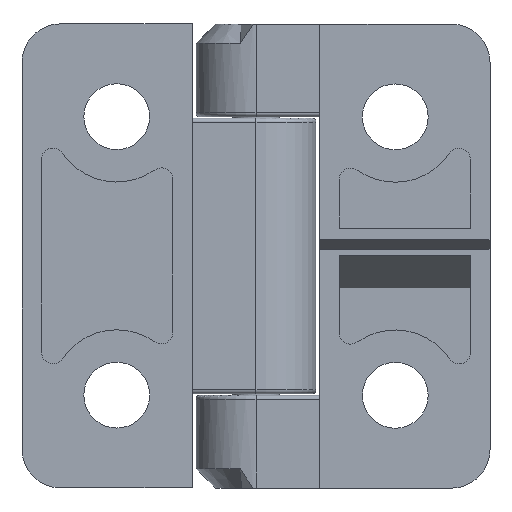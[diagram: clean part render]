
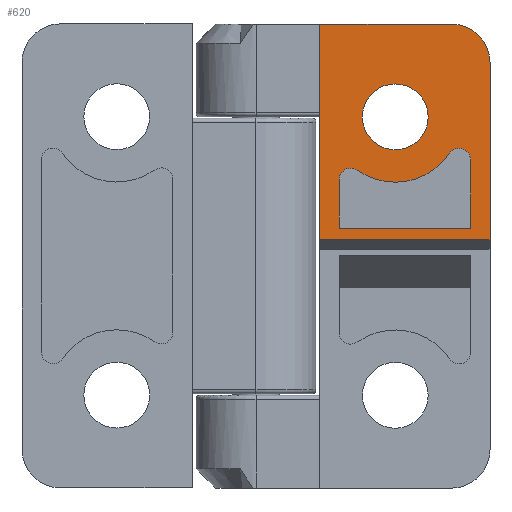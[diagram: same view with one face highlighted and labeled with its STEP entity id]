
A CAD part, front view. The second image highlights one B-rep face of the part: STEP entity #620.
In plain terms, the highlighted planar face has unit normal (0, -1, 0).
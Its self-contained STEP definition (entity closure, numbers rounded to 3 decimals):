
#29 = CARTESIAN_POINT ( 'NONE',  ( -75.713, -51.496, 2.389 ) ) ;
#40 = ORIENTED_EDGE ( 'NONE', *, *, #2066, .T. ) ;
#80 = CIRCLE ( 'NONE', #2576, 0.99 ) ;
#176 = DIRECTION ( 'NONE',  ( 0., 0., -1. ) ) ;
#179 = EDGE_CURVE ( 'NONE', #3744, #4067, #2617, .T. ) ;
#200 = DIRECTION ( 'NONE',  ( 0., 1., 0. ) ) ;
#202 = AXIS2_PLACEMENT_3D ( 'NONE', #3541, #3897, #176 ) ;
#240 = EDGE_CURVE ( 'NONE', #1163, #498, #1005, .T. ) ;
#241 = VECTOR ( 'NONE', #1624, 1000. ) ;
#256 = ORIENTED_EDGE ( 'NONE', *, *, #1982, .F. ) ;
#283 = CARTESIAN_POINT ( 'NONE',  ( -62.843, -51.496, 1.399 ) ) ;
#304 = ORIENTED_EDGE ( 'NONE', *, *, #611, .F. ) ;
#317 = PLANE ( 'NONE',  #1786 ) ;
#412 = CARTESIAN_POINT ( 'NONE',  ( -66.143, -51.496, 19.8 ) ) ;
#481 = CARTESIAN_POINT ( 'NONE',  ( -66.304, -51.496, 8.762 ) ) ;
#488 = EDGE_CURVE ( 'NONE', #2039, #1979, #80, .T. ) ;
#498 = VERTEX_POINT ( 'NONE', #1833 ) ;
#586 = CIRCLE ( 'NONE', #3370, 5.577 ) ;
#611 = EDGE_CURVE ( 'NONE', #2085, #2039, #2346, .T. ) ;
#620 = ADVANCED_FACE ( 'NONE', ( #3972, #2300, #2325 ), #317, .F. ) ;
#628 = VERTEX_POINT ( 'NONE', #3012 ) ;
#643 = DIRECTION ( 'NONE',  ( 0., 0., -1. ) ) ;
#663 = ORIENTED_EDGE ( 'NONE', *, *, #179, .F. ) ;
#730 = DIRECTION ( 'NONE',  ( 0., 0., -1. ) ) ;
#739 = DIRECTION ( 'NONE',  ( 0., 0., -1. ) ) ;
#853 = LINE ( 'NONE', #4181, #4221 ) ;
#881 = ORIENTED_EDGE ( 'NONE', *, *, #1123, .F. ) ;
#908 = CARTESIAN_POINT ( 'NONE',  ( -77.363, -51.496, 19.8 ) ) ;
#919 = EDGE_LOOP ( 'NONE', ( #304, #2228, #1546, #3513, #663, #1903, #2348 ) ) ;
#925 = CARTESIAN_POINT ( 'NONE',  ( -77.363, -51.496, 19.8 ) ) ;
#936 = VECTOR ( 'NONE', #2196, 1000. ) ;
#971 = ORIENTED_EDGE ( 'NONE', *, *, #240, .F. ) ;
#1005 = CIRCLE ( 'NONE', #3939, 2.805 ) ;
#1027 = DIRECTION ( 'NONE',  ( 0., -1., 0. ) ) ;
#1069 = DIRECTION ( 'NONE',  ( 0., 1., 0. ) ) ;
#1085 = EDGE_CURVE ( 'NONE', #2558, #628, #2661, .T. ) ;
#1114 = DIRECTION ( 'NONE',  ( 0., 0., -1. ) ) ;
#1123 = EDGE_CURVE ( 'NONE', #2292, #2558, #3990, .T. ) ;
#1163 = VERTEX_POINT ( 'NONE', #1340 ) ;
#1194 = CARTESIAN_POINT ( 'NONE',  ( -70.928, -51.496, 6.303 ) ) ;
#1214 = EDGE_LOOP ( 'NONE', ( #40, #3964, #256, #1952, #881 ) ) ;
#1247 = DIRECTION ( 'NONE',  ( 0., 0., 1. ) ) ;
#1278 = EDGE_CURVE ( 'NONE', #1979, #3744, #586, .T. ) ;
#1308 = CARTESIAN_POINT ( 'NONE',  ( -79.343, -51.496, 1.399 ) ) ;
#1340 = CARTESIAN_POINT ( 'NONE',  ( -73.733, -51.496, 11.88 ) ) ;
#1395 = DIRECTION ( 'NONE',  ( 0., -1., 0. ) ) ;
#1413 = DIRECTION ( 'NONE',  ( 0., 0., -1. ) ) ;
#1456 = CARTESIAN_POINT ( 'NONE',  ( -70.928, -51.496, 11.88 ) ) ;
#1469 = EDGE_CURVE ( 'NONE', #3116, #2085, #1925, .T. ) ;
#1546 = ORIENTED_EDGE ( 'NONE', *, *, #2666, .F. ) ;
#1579 = CARTESIAN_POINT ( 'NONE',  ( -66.143, -51.496, 16.5 ) ) ;
#1624 = DIRECTION ( 'NONE',  ( 1., 0., 0. ) ) ;
#1703 = CARTESIAN_POINT ( 'NONE',  ( -75.713, -51.496, 6.521 ) ) ;
#1786 = AXIS2_PLACEMENT_3D ( 'NONE', #908, #2011, #3619 ) ;
#1795 = CARTESIAN_POINT ( 'NONE',  ( -64.493, -51.496, 8.209 ) ) ;
#1813 = DIRECTION ( 'NONE',  ( 0., 0., -1. ) ) ;
#1826 = CARTESIAN_POINT ( 'NONE',  ( -77.363, -51.496, 19.8 ) ) ;
#1833 = CARTESIAN_POINT ( 'NONE',  ( -68.123, -51.496, 11.88 ) ) ;
#1903 = ORIENTED_EDGE ( 'NONE', *, *, #1278, .F. ) ;
#1925 = LINE ( 'NONE', #3290, #936 ) ;
#1926 = EDGE_CURVE ( 'NONE', #3543, #2365, #4309, .T. ) ;
#1952 = ORIENTED_EDGE ( 'NONE', *, *, #1085, .F. ) ;
#1979 = VERTEX_POINT ( 'NONE', #481 ) ;
#1982 = EDGE_CURVE ( 'NONE', #628, #2365, #3875, .T. ) ;
#2011 = DIRECTION ( 'NONE',  ( 0., 1., 0. ) ) ;
#2039 = VERTEX_POINT ( 'NONE', #1795 ) ;
#2066 = EDGE_CURVE ( 'NONE', #2292, #3543, #2846, .T. ) ;
#2085 = VERTEX_POINT ( 'NONE', #2202 ) ;
#2096 = VECTOR ( 'NONE', #4162, 1000. ) ;
#2150 = CARTESIAN_POINT ( 'NONE',  ( -65.483, -51.496, 8.209 ) ) ;
#2196 = DIRECTION ( 'NONE',  ( 1., 0., 0. ) ) ;
#2202 = CARTESIAN_POINT ( 'NONE',  ( -64.493, -51.496, 2.389 ) ) ;
#2225 = VECTOR ( 'NONE', #1247, 1000. ) ;
#2228 = ORIENTED_EDGE ( 'NONE', *, *, #1469, .F. ) ;
#2259 = CARTESIAN_POINT ( 'NONE',  ( -64.493, -51.496, 2.389 ) ) ;
#2292 = VERTEX_POINT ( 'NONE', #1826 ) ;
#2294 = DIRECTION ( 'NONE',  ( 1., 0., 0. ) ) ;
#2300 = FACE_BOUND ( 'NONE', #919, .T. ) ;
#2301 = AXIS2_PLACEMENT_3D ( 'NONE', #1456, #1395, #1413 ) ;
#2325 = FACE_OUTER_BOUND ( 'NONE', #1214, .T. ) ;
#2346 = LINE ( 'NONE', #2259, #2225 ) ;
#2348 = ORIENTED_EDGE ( 'NONE', *, *, #488, .F. ) ;
#2365 = VERTEX_POINT ( 'NONE', #283 ) ;
#2460 = EDGE_CURVE ( 'NONE', #498, #1163, #3654, .T. ) ;
#2558 = VERTEX_POINT ( 'NONE', #412 ) ;
#2576 = AXIS2_PLACEMENT_3D ( 'NONE', #2150, #3505, #1813 ) ;
#2617 = CIRCLE ( 'NONE', #202, 5.577 ) ;
#2647 = DIRECTION ( 'NONE',  ( 0., -1., 0. ) ) ;
#2661 = CIRCLE ( 'NONE', #3240, 3.3 ) ;
#2666 = EDGE_CURVE ( 'NONE', #3028, #3116, #853, .T. ) ;
#2671 = CARTESIAN_POINT ( 'NONE',  ( -74.723, -51.496, 6.521 ) ) ;
#2846 = LINE ( 'NONE', #3808, #3660 ) ;
#2882 = EDGE_CURVE ( 'NONE', #4067, #3028, #3091, .T. ) ;
#2956 = ORIENTED_EDGE ( 'NONE', *, *, #2460, .F. ) ;
#3012 = CARTESIAN_POINT ( 'NONE',  ( -62.843, -51.496, 16.5 ) ) ;
#3028 = VERTEX_POINT ( 'NONE', #1703 ) ;
#3080 = CARTESIAN_POINT ( 'NONE',  ( -77.363, -51.496, 1.399 ) ) ;
#3091 = CIRCLE ( 'NONE', #4373, 0.99 ) ;
#3110 = EDGE_LOOP ( 'NONE', ( #971, #2956 ) ) ;
#3116 = VERTEX_POINT ( 'NONE', #29 ) ;
#3240 = AXIS2_PLACEMENT_3D ( 'NONE', #1579, #200, #643 ) ;
#3290 = CARTESIAN_POINT ( 'NONE',  ( -75.713, -51.496, 2.389 ) ) ;
#3370 = AXIS2_PLACEMENT_3D ( 'NONE', #3842, #1069, #4136 ) ;
#3473 = CARTESIAN_POINT ( 'NONE',  ( -62.843, -51.496, 19.8 ) ) ;
#3505 = DIRECTION ( 'NONE',  ( 0., -1., 0. ) ) ;
#3513 = ORIENTED_EDGE ( 'NONE', *, *, #2882, .F. ) ;
#3541 = CARTESIAN_POINT ( 'NONE',  ( -70.928, -51.496, 11.88 ) ) ;
#3543 = VERTEX_POINT ( 'NONE', #3080 ) ;
#3619 = DIRECTION ( 'NONE',  ( 1., 0., 0. ) ) ;
#3654 = CIRCLE ( 'NONE', #2301, 2.805 ) ;
#3660 = VECTOR ( 'NONE', #739, 1000. ) ;
#3744 = VERTEX_POINT ( 'NONE', #1194 ) ;
#3757 = CARTESIAN_POINT ( 'NONE',  ( -70.928, -51.496, 11.88 ) ) ;
#3808 = CARTESIAN_POINT ( 'NONE',  ( -77.363, -51.496, 19.8 ) ) ;
#3842 = CARTESIAN_POINT ( 'NONE',  ( -70.928, -51.496, 11.88 ) ) ;
#3875 = LINE ( 'NONE', #3473, #2096 ) ;
#3897 = DIRECTION ( 'NONE',  ( 0., 1., 0. ) ) ;
#3939 = AXIS2_PLACEMENT_3D ( 'NONE', #3757, #1027, #730 ) ;
#3964 = ORIENTED_EDGE ( 'NONE', *, *, #1926, .T. ) ;
#3972 = FACE_BOUND ( 'NONE', #3110, .T. ) ;
#3990 = LINE ( 'NONE', #925, #4159 ) ;
#4036 = DIRECTION ( 'NONE',  ( 0., 0., -1. ) ) ;
#4067 = VERTEX_POINT ( 'NONE', #4164 ) ;
#4136 = DIRECTION ( 'NONE',  ( 0., 0., -1. ) ) ;
#4159 = VECTOR ( 'NONE', #2294, 1000. ) ;
#4162 = DIRECTION ( 'NONE',  ( 0., 0., -1. ) ) ;
#4164 = CARTESIAN_POINT ( 'NONE',  ( -74.151, -51.496, 7.329 ) ) ;
#4181 = CARTESIAN_POINT ( 'NONE',  ( -75.713, -51.496, 6.521 ) ) ;
#4221 = VECTOR ( 'NONE', #1114, 1000. ) ;
#4309 = LINE ( 'NONE', #1308, #241 ) ;
#4373 = AXIS2_PLACEMENT_3D ( 'NONE', #2671, #2647, #4036 ) ;
